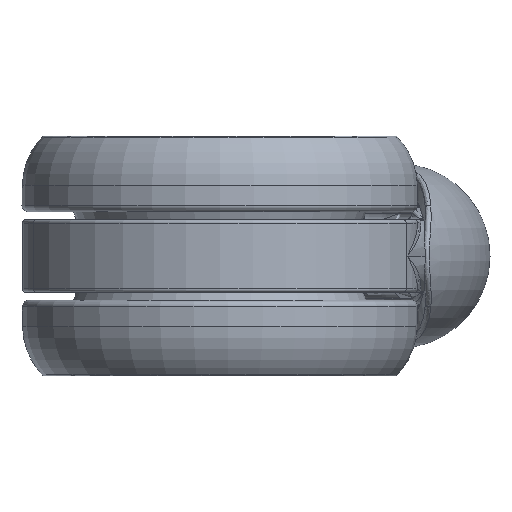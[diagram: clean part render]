
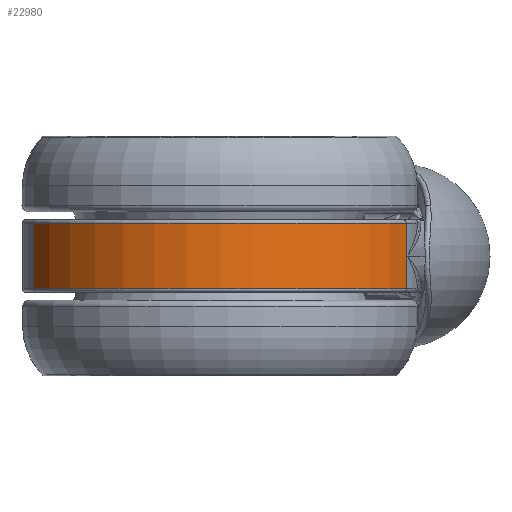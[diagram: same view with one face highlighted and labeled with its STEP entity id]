
A CAD part, front view. The second image highlights one B-rep face of the part: STEP entity #22980.
In plain terms, the highlighted cylindrical face has radius 30.924 mm (diameter 61.847 mm), a partial arc.
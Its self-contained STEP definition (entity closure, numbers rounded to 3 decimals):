
#127 = CIRCLE ( 'NONE', #18220, 30.924 ) ;
#1877 = DIRECTION ( 'NONE',  ( 0., 0., -1. ) ) ;
#2508 = VERTEX_POINT ( 'NONE', #3032 ) ;
#2665 = DIRECTION ( 'NONE',  ( 0., 0., -1. ) ) ;
#2720 = VERTEX_POINT ( 'NONE', #20327 ) ;
#2764 = CARTESIAN_POINT ( 'NONE',  ( 28.273, -8.602, 5. ) ) ;
#3032 = CARTESIAN_POINT ( 'NONE',  ( -28.273, -8.602, -5. ) ) ;
#3107 = CARTESIAN_POINT ( 'NONE',  ( 0., 3.924, -5. ) ) ;
#3342 = CARTESIAN_POINT ( 'NONE',  ( 28.273, -8.602, 12.5 ) ) ;
#4411 = EDGE_LOOP ( 'NONE', ( #18844, #8587, #23202, #20889 ) ) ;
#7212 = DIRECTION ( 'NONE',  ( 0., 0., -1. ) ) ;
#7350 = LINE ( 'NONE', #3342, #19952 ) ;
#8433 = DIRECTION ( 'NONE',  ( 0., 0., 1. ) ) ;
#8587 = ORIENTED_EDGE ( 'NONE', *, *, #17995, .T. ) ;
#8925 = CARTESIAN_POINT ( 'NONE',  ( 28.273, -8.602, -5. ) ) ;
#9148 = LINE ( 'NONE', #22753, #17518 ) ;
#9650 = DIRECTION ( 'NONE',  ( 0., 0., 1. ) ) ;
#10095 = CIRCLE ( 'NONE', #10923, 30.924 ) ;
#10525 = CYLINDRICAL_SURFACE ( 'NONE', #16242, 30.924 ) ;
#10923 = AXIS2_PLACEMENT_3D ( 'NONE', #23479, #1877, #19394 ) ;
#14368 = VERTEX_POINT ( 'NONE', #2764 ) ;
#15031 = FACE_OUTER_BOUND ( 'NONE', #4411, .T. ) ;
#16242 = AXIS2_PLACEMENT_3D ( 'NONE', #24410, #2665, #22465 ) ;
#17518 = VECTOR ( 'NONE', #7212, 1000. ) ;
#17995 = EDGE_CURVE ( 'NONE', #2508, #20678, #127, .T. ) ;
#18220 = AXIS2_PLACEMENT_3D ( 'NONE', #3107, #8433, #19870 ) ;
#18844 = ORIENTED_EDGE ( 'NONE', *, *, #24172, .T. ) ;
#19394 = DIRECTION ( 'NONE',  ( 1., 0., 0. ) ) ;
#19870 = DIRECTION ( 'NONE',  ( -1., 0., 0. ) ) ;
#19952 = VECTOR ( 'NONE', #9650, 1000. ) ;
#20327 = CARTESIAN_POINT ( 'NONE',  ( -28.273, -8.602, 5. ) ) ;
#20678 = VERTEX_POINT ( 'NONE', #8925 ) ;
#20889 = ORIENTED_EDGE ( 'NONE', *, *, #23662, .T. ) ;
#21174 = EDGE_CURVE ( 'NONE', #20678, #14368, #7350, .T. ) ;
#22465 = DIRECTION ( 'NONE',  ( -1., 0., 0. ) ) ;
#22753 = CARTESIAN_POINT ( 'NONE',  ( -28.273, -8.602, 12.5 ) ) ;
#22980 = ADVANCED_FACE ( 'NONE', ( #15031 ), #10525, .T. ) ;
#23202 = ORIENTED_EDGE ( 'NONE', *, *, #21174, .T. ) ;
#23479 = CARTESIAN_POINT ( 'NONE',  ( 0., 3.924, 5. ) ) ;
#23662 = EDGE_CURVE ( 'NONE', #14368, #2720, #10095, .T. ) ;
#24172 = EDGE_CURVE ( 'NONE', #2720, #2508, #9148, .T. ) ;
#24410 = CARTESIAN_POINT ( 'NONE',  ( 0., 3.924, 12.5 ) ) ;
